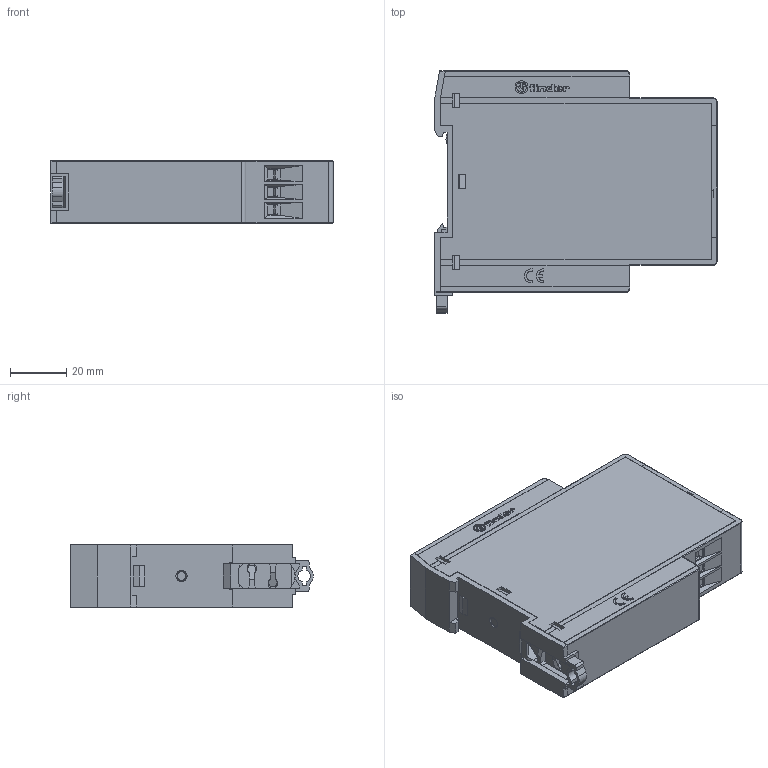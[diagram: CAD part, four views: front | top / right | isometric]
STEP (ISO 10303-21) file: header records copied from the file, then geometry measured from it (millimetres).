
FILE_DESCRIPTION(/* description */ ('Unknown'),/* implementation_level */ '2;1');
FILE_NAME(/* name */ '8341',/* time_stamp */ '2016-12-05T15:05:33+01:00',/* author */ ('Unknown'),/* organization */ ('Unknown'),/* preprocessor_version */ 'ST-DEVELOPER v16.7',/* originating_system */ 'DEX',/* authorisation */ $);
FILE_SCHEMA (('TECHNICAL_DATA_PACKAGING','AUTOMOTIVE_DESIGN {1 0 10303 214 3 1 1}'));
Length unit declared in the file: millimetre
Products named in the file (1): Complessivo 83_41
Bounding box: 100.3 x 86.25 x 22.5 mm (x, y, z)
Surface area: 28640.1 mm2 (no closed solid volume)
Topology: 0 solids, 103 shells, 1270 faces, 5061 edges, 3873 vertices
Faces by surface type: plane 1089, cylinder 100, cone 35, torus 20, bspline 14, sphere 12
Full cylindrical faces by diameter (mm): 3 x2, 4.566 x2, 5.1 x6
Entity records: 53141 total; most frequent: CARTESIAN_POINT 11832, DIRECTION 7891, ORIENTED_EDGE 7144, EDGE_CURVE 5031, LINE 4449, VECTOR 4449, VERTEX_POINT 3862, AXIS2_PLACEMENT_3D 1721
